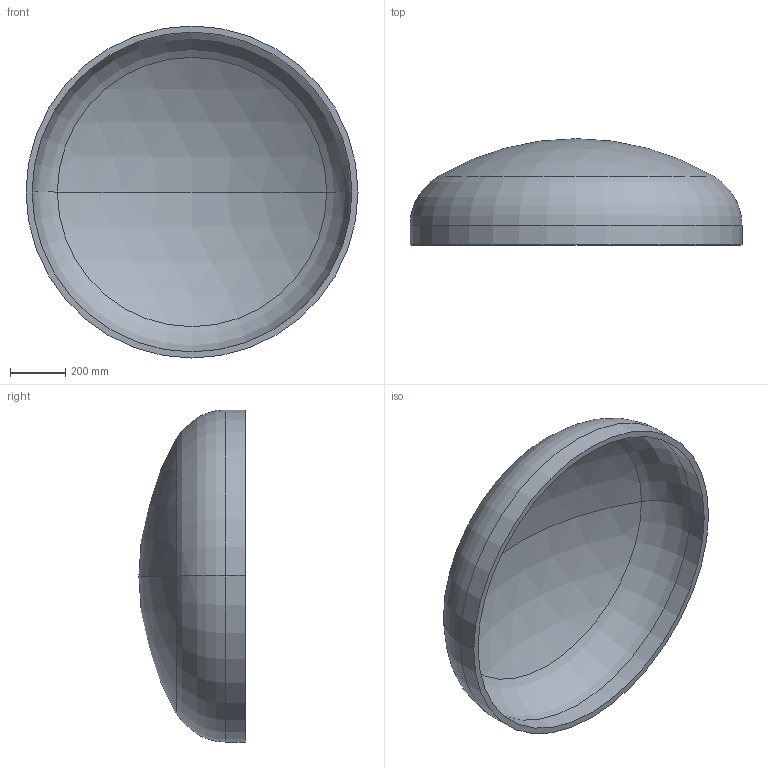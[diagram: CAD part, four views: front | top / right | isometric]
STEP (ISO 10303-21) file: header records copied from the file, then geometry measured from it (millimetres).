
FILE_DESCRIPTION (( 'STEP AP203' ), '1' );
FILE_NAME ('DIN 28013 Korbbogenform_-_Boden DIN 28013 - 1200 x 70 - I - s=22.step', '2016-07-01T09:23:39', ( '' ), ( '' ), 'SwSTEP 2.0', 'SolidWorks 2013', '' );
FILE_SCHEMA (( 'CONFIG_CONTROL_DESIGN' ));
Length unit declared in the file: millimetre
Products named in the file (1): DIN 28013 Korbbogenform_-_Boden DIN 28013 - 1200 x 70 - I - s=22
Bounding box: 1200 x 384.04 x 1200 mm (x, y, z)
Volume: 39344143.5 mm3; surface area: 3659170.4 mm2
Topology: 1 solids, 1 shells, 13 faces, 24 edges, 14 vertices
Faces by surface type: torus 4, cylinder 4, sphere 4, plane 1
Entity records: 407 total; most frequent: DIRECTION 72, CARTESIAN_POINT 52, ORIENTED_EDGE 48, AXIS2_PLACEMENT_3D 34, EDGE_CURVE 24, CIRCLE 20, EDGE_LOOP 14, VERTEX_POINT 14
